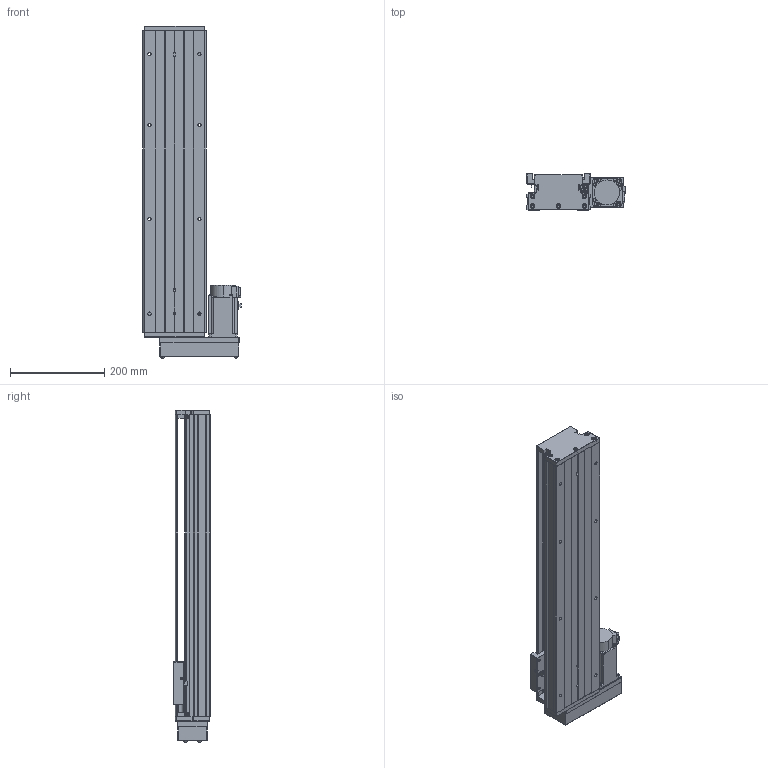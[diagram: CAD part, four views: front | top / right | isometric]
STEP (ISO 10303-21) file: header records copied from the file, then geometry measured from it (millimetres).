
FILE_DESCRIPTION (( 'STEP AP203' ), '1' );
FILE_NAME ('KTH130-500-BR-M40-C4.step', '2023-06-30T04:11:53', ( '微软用户' ), ( '微软中国' ), 'SwSTEP 2.0', 'SolidWorks 2020', '' );
FILE_SCHEMA (( 'CONFIG_CONTROL_DESIGN' ));
Length unit declared in the file: millimetre
Products named in the file (19): GBT 70.1-M3℅5; GTH14-033; GB1155-6X6; GBT77-2000 M3×3; KTH130-500-BR-M40-C4; GBT70.1 M5℅16; す晦芛蹟隊 M3℅5; GBT 70.2-M3¡Á5_M3¡Á6; GBT 70.3-M3℅8; GTH14-001_500; CTHA60-017; HG-KN43J-S100; KTH130-002_KTH130-002; EE_SX911P_R; GBT 70.2-M4¡Á35_M4¡Á35; KTH130-004; CTHA60-016; GTH14-015-2_CTHA86-015-2; KTH130-005
Assembly tree (53 placements, depth 2):
  KTH130-500-BR-M40-C4
    GTH14-001_500
    KTH130-002_KTH130-002
    KTH130-004
    KTH130-005
    GB1155-6X6  x2
    GBT70.1 M5℅16  x10
    GBT 70.2-M3¡Á5_M3¡Á6  x4
    CTHA60-017  x3
    EE_SX911P_R  x3
    CTHA60-016  x2
    GBT 70.1-M3℅5  x6
    GBT77-2000 M3×3  x6
    す晦芛蹟隊 M3℅5  x2
    GBT 70.3-M3℅8  x4
    HG-KN43J-S100
    GBT 70.2-M4¡Á35_M4¡Á35  x4
    GTH14-015-2_CTHA86-015-2
    GTH14-033
Bounding box: 209.3 x 78 x 704.2 mm (x, y, z)
Volume: 4131345.3 mm3; surface area: 693733.1 mm2
Topology: 56 solids, 56 shells, 2213 faces, 5342 edges, 3326 vertices
Faces by surface type: plane 1195, cylinder 604, cone 290, torus 100, sphere 24
Entity records: 40250 total; most frequent: CARTESIAN_POINT 8584, DIRECTION 5979, ORIENTED_EDGE 5884, EDGE_CURVE 2942, AXIS2_PLACEMENT_3D 2052, VERTEX_POINT 1879, LINE 1875, VECTOR 1875
